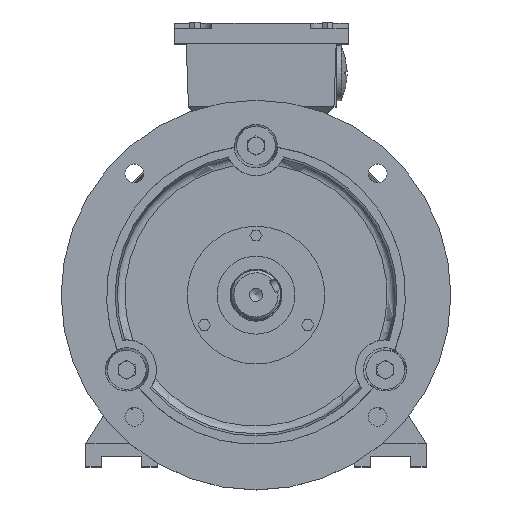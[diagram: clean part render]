
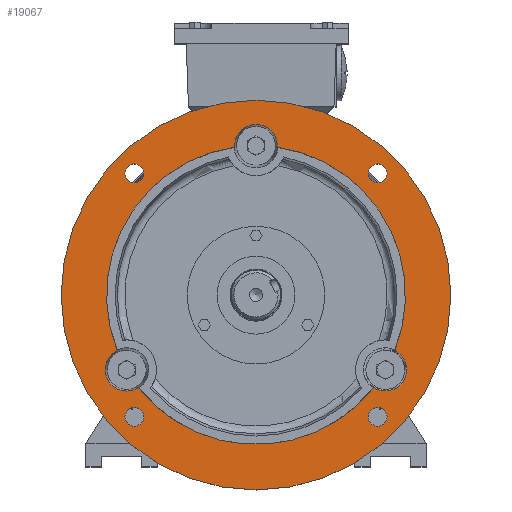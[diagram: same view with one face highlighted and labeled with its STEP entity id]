
A CAD part, top view. The second image highlights one B-rep face of the part: STEP entity #19067.
In plain terms, the highlighted planar face has unit normal (0, 0, 1) as drawn and (-1, 0, 0) by its records, which use the part's own axes.
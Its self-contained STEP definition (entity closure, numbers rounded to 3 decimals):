
#319=FACE_BOUND('',#3200,.T.);
#320=FACE_BOUND('',#3201,.T.);
#321=FACE_BOUND('',#3202,.T.);
#322=FACE_BOUND('',#3203,.T.);
#323=FACE_BOUND('',#3204,.T.);
#972=PLANE('',#20440);
#2013=FACE_OUTER_BOUND('',#3199,.T.);
#3199=EDGE_LOOP('',(#14943));
#3200=EDGE_LOOP('',(#14944));
#3201=EDGE_LOOP('',(#14945));
#3202=EDGE_LOOP('',(#14946));
#3203=EDGE_LOOP('',(#14947));
#3204=EDGE_LOOP('',(#14948,#14949,#14950,#14951,#14952,#14953,#14954,#14955,
#14956));
#8323=CIRCLE('',#20300,16.36);
#8327=CIRCLE('',#20304,16.36);
#8329=CIRCLE('',#20307,16.36);
#8333=CIRCLE('',#20311,16.36);
#8337=CIRCLE('',#20317,16.36);
#8341=CIRCLE('',#20321,16.36);
#8345=CIRCLE('',#20327,7.25);
#8347=CIRCLE('',#20330,7.25);
#8349=CIRCLE('',#20333,7.25);
#8351=CIRCLE('',#20336,7.25);
#8358=CIRCLE('',#20347,115.);
#8360=CIRCLE('',#20350,150.);
#8378=CIRCLE('',#20377,115.);
#8380=CIRCLE('',#20380,115.);
#9058=VERTEX_POINT('',#46924);
#9059=VERTEX_POINT('',#46926);
#9062=VERTEX_POINT('',#46932);
#9064=VERTEX_POINT('',#46938);
#9065=VERTEX_POINT('',#46940);
#9068=VERTEX_POINT('',#46946);
#9076=VERTEX_POINT('',#46997);
#9077=VERTEX_POINT('',#46999);
#9080=VERTEX_POINT('',#47005);
#9086=VERTEX_POINT('',#47020);
#9088=VERTEX_POINT('',#47026);
#9090=VERTEX_POINT('',#47032);
#9092=VERTEX_POINT('',#47038);
#9099=VERTEX_POINT('',#47063);
#11141=EDGE_CURVE('',#9059,#9058,#8323,.T.);
#11145=EDGE_CURVE('',#9058,#9062,#8327,.T.);
#11148=EDGE_CURVE('',#9065,#9064,#8329,.T.);
#11152=EDGE_CURVE('',#9064,#9068,#8333,.T.);
#11161=EDGE_CURVE('',#9077,#9076,#8337,.T.);
#11165=EDGE_CURVE('',#9076,#9080,#8341,.T.);
#11172=EDGE_CURVE('',#9086,#9086,#8345,.T.);
#11175=EDGE_CURVE('',#9088,#9088,#8347,.T.);
#11178=EDGE_CURVE('',#9090,#9090,#8349,.T.);
#11181=EDGE_CURVE('',#9092,#9092,#8351,.T.);
#11191=EDGE_CURVE('',#9059,#9080,#8358,.T.);
#11193=EDGE_CURVE('',#9099,#9099,#8360,.T.);
#11222=EDGE_CURVE('',#9065,#9062,#8378,.T.);
#11224=EDGE_CURVE('',#9077,#9068,#8380,.T.);
#14943=ORIENTED_EDGE('',*,*,#11193,.T.);
#14944=ORIENTED_EDGE('',*,*,#11172,.F.);
#14945=ORIENTED_EDGE('',*,*,#11175,.F.);
#14946=ORIENTED_EDGE('',*,*,#11178,.F.);
#14947=ORIENTED_EDGE('',*,*,#11181,.F.);
#14948=ORIENTED_EDGE('',*,*,#11191,.F.);
#14949=ORIENTED_EDGE('',*,*,#11141,.T.);
#14950=ORIENTED_EDGE('',*,*,#11145,.T.);
#14951=ORIENTED_EDGE('',*,*,#11222,.F.);
#14952=ORIENTED_EDGE('',*,*,#11148,.T.);
#14953=ORIENTED_EDGE('',*,*,#11152,.T.);
#14954=ORIENTED_EDGE('',*,*,#11224,.F.);
#14955=ORIENTED_EDGE('',*,*,#11161,.T.);
#14956=ORIENTED_EDGE('',*,*,#11165,.T.);
#19067=ADVANCED_FACE('',(#2013,#319,#320,#321,#322,#323),#972,.F.);
#20300=AXIS2_PLACEMENT_3D('',#46927,#22453,#22454);
#20304=AXIS2_PLACEMENT_3D('',#46934,#22461,#22462);
#20307=AXIS2_PLACEMENT_3D('',#46941,#22468,#22469);
#20311=AXIS2_PLACEMENT_3D('',#46948,#22476,#22477);
#20317=AXIS2_PLACEMENT_3D('',#47000,#22489,#22490);
#20321=AXIS2_PLACEMENT_3D('',#47007,#22497,#22498);
#20327=AXIS2_PLACEMENT_3D('',#47022,#22512,#22513);
#20330=AXIS2_PLACEMENT_3D('',#47028,#22519,#22520);
#20333=AXIS2_PLACEMENT_3D('',#47034,#22526,#22527);
#20336=AXIS2_PLACEMENT_3D('',#47040,#22533,#22534);
#20347=AXIS2_PLACEMENT_3D('',#47060,#22558,#22559);
#20350=AXIS2_PLACEMENT_3D('',#47064,#22564,#22565);
#20377=AXIS2_PLACEMENT_3D('',#47155,#22625,#22626);
#20380=AXIS2_PLACEMENT_3D('',#47158,#22631,#22632);
#20440=AXIS2_PLACEMENT_3D('',#47390,#22813,#22814);
#22453=DIRECTION('center_axis',(1.,0.,0.));
#22454=DIRECTION('ref_axis',(0.,0.,-1.));
#22461=DIRECTION('center_axis',(1.,0.,0.));
#22462=DIRECTION('ref_axis',(0.,0.,-1.));
#22468=DIRECTION('center_axis',(1.,0.,0.));
#22469=DIRECTION('ref_axis',(0.,0.,-1.));
#22476=DIRECTION('center_axis',(1.,0.,0.));
#22477=DIRECTION('ref_axis',(0.,0.,-1.));
#22489=DIRECTION('center_axis',(1.,0.,0.));
#22490=DIRECTION('ref_axis',(0.,0.,-1.));
#22497=DIRECTION('center_axis',(1.,0.,0.));
#22498=DIRECTION('ref_axis',(0.,0.,-1.));
#22512=DIRECTION('center_axis',(-1.,0.,0.));
#22513=DIRECTION('ref_axis',(0.,0.,1.));
#22519=DIRECTION('center_axis',(-1.,0.,0.));
#22520=DIRECTION('ref_axis',(0.,0.,1.));
#22526=DIRECTION('center_axis',(-1.,0.,0.));
#22527=DIRECTION('ref_axis',(0.,0.,1.));
#22533=DIRECTION('center_axis',(-1.,0.,0.));
#22534=DIRECTION('ref_axis',(0.,0.,1.));
#22558=DIRECTION('center_axis',(-1.,0.,0.));
#22559=DIRECTION('ref_axis',(0.,0.,1.));
#22564=DIRECTION('center_axis',(-1.,0.,0.));
#22565=DIRECTION('ref_axis',(0.,0.,1.));
#22625=DIRECTION('center_axis',(-1.,0.,0.));
#22626=DIRECTION('ref_axis',(0.,0.,1.));
#22631=DIRECTION('center_axis',(-1.,0.,0.));
#22632=DIRECTION('ref_axis',(0.,0.,1.));
#22813=DIRECTION('center_axis',(1.,0.,0.));
#22814=DIRECTION('ref_axis',(0.,0.,-1.));
#46924=CARTESIAN_POINT('',(-8.,-43.332,107.773));
#46926=CARTESIAN_POINT('',(-8.,-42.786,106.744));
#46927=CARTESIAN_POINT('Origin',(-8.,-57.5,99.593));
#46932=CARTESIAN_POINT('',(-8.,-71.05,90.426));
#46934=CARTESIAN_POINT('Origin',(-8.,-57.5,99.593));
#46938=CARTESIAN_POINT('',(-8.,-71.668,-91.413));
#46940=CARTESIAN_POINT('',(-8.,-71.05,-90.426));
#46941=CARTESIAN_POINT('Origin',(-8.,-57.5,-99.593));
#46946=CARTESIAN_POINT('',(-8.,-42.786,-106.744));
#46948=CARTESIAN_POINT('Origin',(-8.,-57.5,-99.593));
#46997=CARTESIAN_POINT('',(-8.,115.,-16.36));
#46999=CARTESIAN_POINT('',(-8.,113.836,-16.319));
#47000=CARTESIAN_POINT('Origin',(-8.,115.,0.));
#47005=CARTESIAN_POINT('',(-8.,113.836,16.319));
#47007=CARTESIAN_POINT('Origin',(-8.,115.,0.));
#47020=CARTESIAN_POINT('',(-8.,93.692,-100.942));
#47022=CARTESIAN_POINT('Origin',(-8.,93.692,-93.692));
#47026=CARTESIAN_POINT('',(-8.,-93.692,-100.942));
#47028=CARTESIAN_POINT('Origin',(-8.,-93.692,-93.692));
#47032=CARTESIAN_POINT('',(-8.,-93.692,86.442));
#47034=CARTESIAN_POINT('Origin',(-8.,-93.692,93.692));
#47038=CARTESIAN_POINT('',(-8.,93.692,86.442));
#47040=CARTESIAN_POINT('Origin',(-8.,93.692,93.692));
#47060=CARTESIAN_POINT('Origin',(-8.,0.,0.));
#47063=CARTESIAN_POINT('',(-8.,0.,-150.));
#47064=CARTESIAN_POINT('Origin',(-8.,0.,0.));
#47155=CARTESIAN_POINT('Origin',(-8.,0.,0.));
#47158=CARTESIAN_POINT('Origin',(-8.,0.,0.));
#47390=CARTESIAN_POINT('Origin',(-8.,115.,0.));
